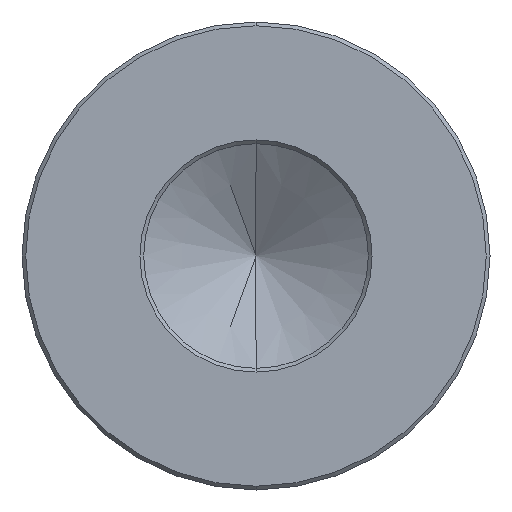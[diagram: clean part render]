
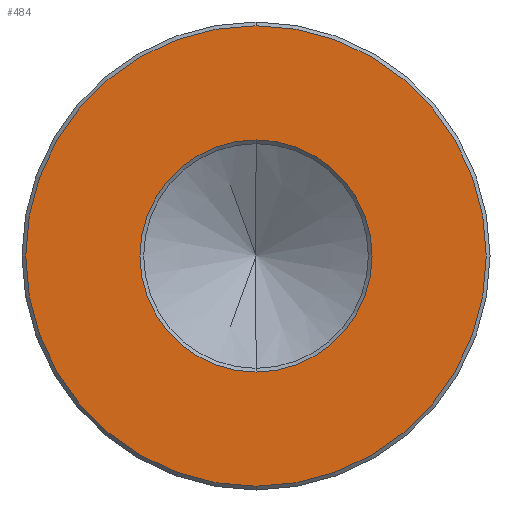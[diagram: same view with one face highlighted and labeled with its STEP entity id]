
A CAD part, front view. The second image highlights one B-rep face of the part: STEP entity #484.
In plain terms, the highlighted planar face has unit normal (0, -1, 0).
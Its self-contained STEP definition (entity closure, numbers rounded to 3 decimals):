
#2 = DIRECTION ( 'NONE',  ( 0., 0., 1. ) ) ;
#20 = EDGE_CURVE ( 'NONE', #748, #761, #820, .T. ) ;
#85 = VERTEX_POINT ( 'NONE', #695 ) ;
#144 = DIRECTION ( 'NONE',  ( 0., 1., 0. ) ) ;
#200 = ORIENTED_EDGE ( 'NONE', *, *, #403, .T. ) ;
#211 = CARTESIAN_POINT ( 'NONE',  ( 0., 0., 0. ) ) ;
#224 = ORIENTED_EDGE ( 'NONE', *, *, #435, .T. ) ;
#241 = EDGE_LOOP ( 'NONE', ( #755, #200 ) ) ;
#273 = PLANE ( 'NONE',  #816 ) ;
#286 = DIRECTION ( 'NONE',  ( 0., 1., 0. ) ) ;
#290 = CIRCLE ( 'NONE', #768, 6.2 ) ;
#332 = DIRECTION ( 'NONE',  ( 0., 0., 1. ) ) ;
#347 = CIRCLE ( 'NONE', #474, 12.3 ) ;
#382 = CARTESIAN_POINT ( 'NONE',  ( 0., 0., 6.2 ) ) ;
#384 = CARTESIAN_POINT ( 'NONE',  ( 0., 0., 0. ) ) ;
#398 = CARTESIAN_POINT ( 'NONE',  ( 0., 0., 0. ) ) ;
#403 = EDGE_CURVE ( 'NONE', #812, #85, #419, .T. ) ;
#412 = EDGE_CURVE ( 'NONE', #85, #812, #290, .T. ) ;
#419 = CIRCLE ( 'NONE', #720, 6.2 ) ;
#422 = ORIENTED_EDGE ( 'NONE', *, *, #20, .T. ) ;
#435 = EDGE_CURVE ( 'NONE', #761, #748, #347, .T. ) ;
#474 = AXIS2_PLACEMENT_3D ( 'NONE', #781, #581, #591 ) ;
#484 = ADVANCED_FACE ( 'NONE', ( #670, #786 ), #273, .F. ) ;
#490 = AXIS2_PLACEMENT_3D ( 'NONE', #682, #753, #754 ) ;
#524 = CARTESIAN_POINT ( 'NONE',  ( 0., 0., 12.3 ) ) ;
#581 = DIRECTION ( 'NONE',  ( 0., -1., 0. ) ) ;
#591 = DIRECTION ( 'NONE',  ( 0., 0., 1. ) ) ;
#639 = CARTESIAN_POINT ( 'NONE',  ( 0., 0., -12.3 ) ) ;
#651 = EDGE_LOOP ( 'NONE', ( #224, #422 ) ) ;
#670 = FACE_BOUND ( 'NONE', #241, .T. ) ;
#682 = CARTESIAN_POINT ( 'NONE',  ( 0., 0., 0. ) ) ;
#695 = CARTESIAN_POINT ( 'NONE',  ( 0., 0., -6.2 ) ) ;
#714 = DIRECTION ( 'NONE',  ( 0., 1., 0. ) ) ;
#720 = AXIS2_PLACEMENT_3D ( 'NONE', #211, #286, #795 ) ;
#748 = VERTEX_POINT ( 'NONE', #639 ) ;
#753 = DIRECTION ( 'NONE',  ( 0., -1., 0. ) ) ;
#754 = DIRECTION ( 'NONE',  ( 0., 0., 1. ) ) ;
#755 = ORIENTED_EDGE ( 'NONE', *, *, #412, .T. ) ;
#761 = VERTEX_POINT ( 'NONE', #524 ) ;
#768 = AXIS2_PLACEMENT_3D ( 'NONE', #398, #714, #332 ) ;
#781 = CARTESIAN_POINT ( 'NONE',  ( 0., 0., 0. ) ) ;
#786 = FACE_OUTER_BOUND ( 'NONE', #651, .T. ) ;
#795 = DIRECTION ( 'NONE',  ( 0., 0., 1. ) ) ;
#812 = VERTEX_POINT ( 'NONE', #382 ) ;
#816 = AXIS2_PLACEMENT_3D ( 'NONE', #384, #144, #2 ) ;
#820 = CIRCLE ( 'NONE', #490, 12.3 ) ;
